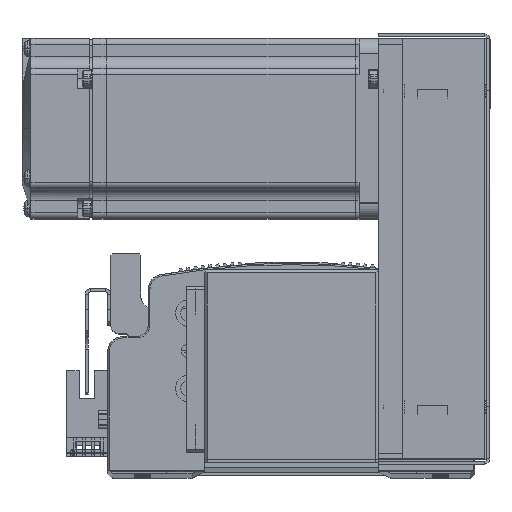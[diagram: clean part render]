
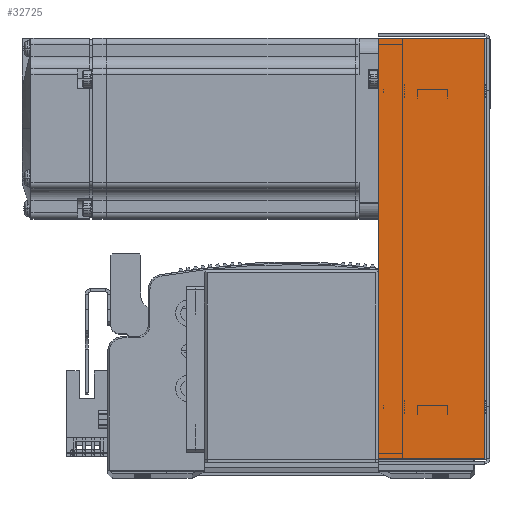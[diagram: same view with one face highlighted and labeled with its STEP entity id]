
A CAD part, top view. The second image highlights one B-rep face of the part: STEP entity #32725.
In plain terms, the highlighted planar face has unit normal (0, 0, 1) as drawn and (0, 0, -1) by its records, which use the part's own axes.
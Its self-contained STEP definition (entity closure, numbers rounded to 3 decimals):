
#9492 = DIRECTION ( 'NONE',  ( 0., 1., 0. ) ) ;
#9503 = CARTESIAN_POINT ( 'NONE',  ( 0., 36., -33.5 ) ) ;
#9504 = CARTESIAN_POINT ( 'NONE',  ( 69.793, 0., -33.5 ) ) ;
#9507 = DIRECTION ( 'NONE',  ( 1., 0., 0. ) ) ;
#9517 = CARTESIAN_POINT ( 'NONE',  ( -69.793, 0., -33.5 ) ) ;
#9523 = DIRECTION ( 'NONE',  ( 0., 1., 0. ) ) ;
#10892 = DIRECTION ( 'NONE',  ( 1., 0., 0. ) ) ;
#10957 = CARTESIAN_POINT ( 'NONE',  ( 71.5, 0.737, -33.5 ) ) ;
#15689 = AXIS2_PLACEMENT_3D ( 'NONE', #48591, #48614, #48594 ) ;
#23051 = ORIENTED_EDGE ( 'NONE', *, *, #78530, .F. ) ;
#23094 = ORIENTED_EDGE ( 'NONE', *, *, #78535, .T. ) ;
#23109 = ORIENTED_EDGE ( 'NONE', *, *, #78555, .T. ) ;
#23138 = ORIENTED_EDGE ( 'NONE', *, *, #78542, .F. ) ;
#30676 = CARTESIAN_POINT ( 'NONE',  ( 69.793, 36., -33.5 ) ) ;
#30738 = CARTESIAN_POINT ( 'NONE',  ( -69.793, 0.737, -33.5 ) ) ;
#30741 = CARTESIAN_POINT ( 'NONE',  ( 69.793, 0.737, -33.5 ) ) ;
#30758 = CARTESIAN_POINT ( 'NONE',  ( -69.793, 36., -33.5 ) ) ;
#32725 = ADVANCED_FACE ( 'NONE', ( #70650 ), #48606, .F. ) ;
#34998 = LINE ( 'NONE', #10957, #35000 ) ;
#35000 = VECTOR ( 'NONE', #10892, 1000. ) ;
#35003 = VECTOR ( 'NONE', #9523, 1000. ) ;
#35009 = LINE ( 'NONE', #9503, #35015 ) ;
#35015 = VECTOR ( 'NONE', #9507, 1000. ) ;
#35018 = VECTOR ( 'NONE', #9492, 1000. ) ;
#35048 = LINE ( 'NONE', #9517, #35003 ) ;
#35050 = LINE ( 'NONE', #9504, #35018 ) ;
#48591 = CARTESIAN_POINT ( 'NONE',  ( 0., 0., -33.5 ) ) ;
#48594 = DIRECTION ( 'NONE',  ( 0., -1., 0. ) ) ;
#48606 = PLANE ( 'NONE',  #15689 ) ;
#48614 = DIRECTION ( 'NONE',  ( 0., 0., 1. ) ) ;
#70650 = FACE_OUTER_BOUND ( 'NONE', #86297, .T. ) ;
#72957 = VERTEX_POINT ( 'NONE', #30676 ) ;
#72990 = VERTEX_POINT ( 'NONE', #30738 ) ;
#73004 = VERTEX_POINT ( 'NONE', #30758 ) ;
#73007 = VERTEX_POINT ( 'NONE', #30741 ) ;
#78530 = EDGE_CURVE ( 'NONE', #72990, #73007, #34998, .T. ) ;
#78535 = EDGE_CURVE ( 'NONE', #73004, #72957, #35009, .T. ) ;
#78542 = EDGE_CURVE ( 'NONE', #73007, #72957, #35050, .T. ) ;
#78555 = EDGE_CURVE ( 'NONE', #72990, #73004, #35048, .T. ) ;
#86297 = EDGE_LOOP ( 'NONE', ( #23051, #23109, #23094, #23138 ) ) ;
